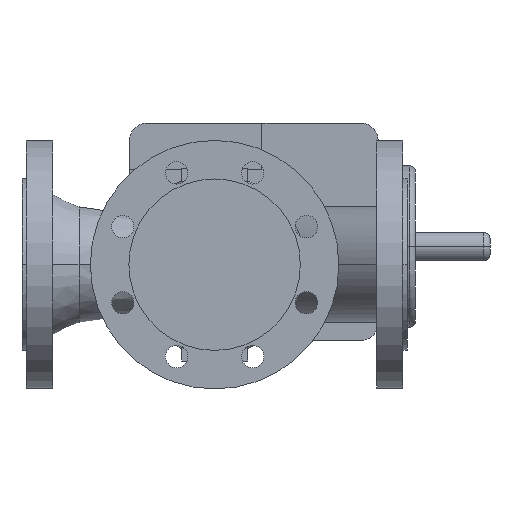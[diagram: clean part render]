
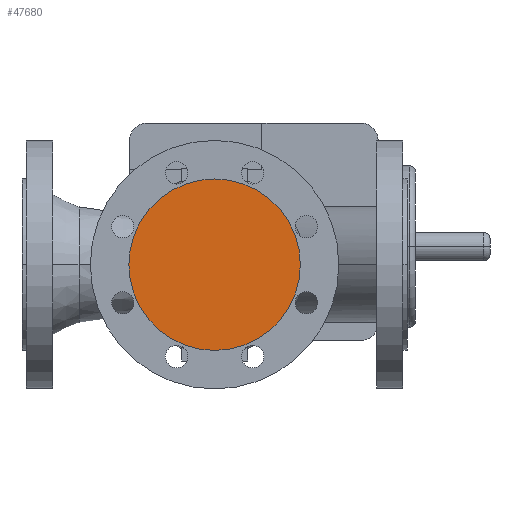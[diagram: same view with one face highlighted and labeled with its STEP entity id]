
A CAD part, front view. The second image highlights one B-rep face of the part: STEP entity #47680.
In plain terms, the highlighted planar face has unit normal (0, -1, 0).
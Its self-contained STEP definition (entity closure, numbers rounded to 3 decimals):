
#4560=CARTESIAN_POINT('',(224.,-130.,0.));
#4570=VERTEX_POINT('',#4560);
#4600=CARTESIAN_POINT('',(155.,-130.,0.));
#4610=DIRECTION('',(0.,1.,0.));
#4620=DIRECTION('',(1.,0.,0.));
#4630=AXIS2_PLACEMENT_3D('',#4600,#4610,#4620);
#4640=CIRCLE('',#4630,69.);
#4650=CARTESIAN_POINT('',(86.,-130.,0.));
#4660=VERTEX_POINT('',#4650);
#4670=EDGE_CURVE('',#4660,#4570,#4640,.T.);
#47580=CARTESIAN_POINT('',(189.5,-130.,0.));
#47590=DIRECTION('',(0.,-1.,0.));
#47600=DIRECTION('',(-1.,0.,0.));
#47610=AXIS2_PLACEMENT_3D('',#47580,#47590,#47600);
#47620=PLANE('',#47610);
#47630=EDGE_CURVE('',#4570,#4660,#4640,.T.);
#47640=ORIENTED_EDGE('',*,*,#47630,.F.);
#47650=ORIENTED_EDGE('',*,*,#4670,.F.);
#47660=EDGE_LOOP('',(#47650,#47640));
#47670=FACE_OUTER_BOUND('',#47660,.T.);
#47680=ADVANCED_FACE('',(#47670),#47620,.T.);
